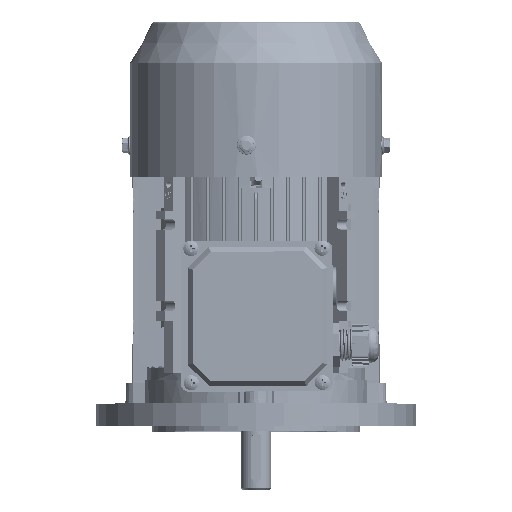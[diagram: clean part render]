
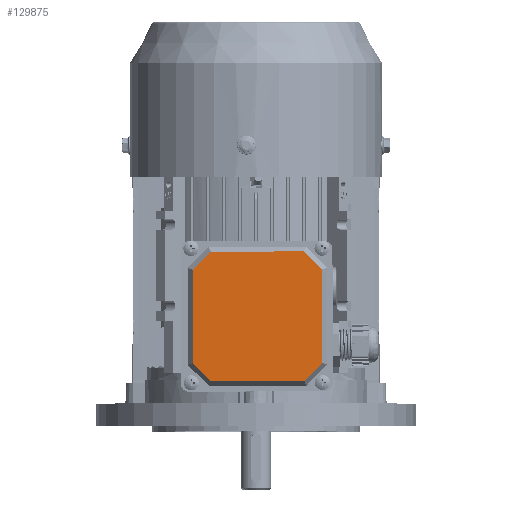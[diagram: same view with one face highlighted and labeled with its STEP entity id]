
A CAD part, top view. The second image highlights one B-rep face of the part: STEP entity #129875.
In plain terms, the highlighted planar face has unit normal (0, 0, 1) as drawn and (0, 1, 0) by its records, which use the part's own axes.
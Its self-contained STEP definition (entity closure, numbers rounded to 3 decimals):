
#4655 = LINE ( 'NONE', #78725, #34906 ) ;
#5495 = VERTEX_POINT ( 'NONE', #96677 ) ;
#7581 = FACE_OUTER_BOUND ( 'NONE', #130439, .T. ) ;
#13735 = VECTOR ( 'NONE', #115745, 1000. ) ;
#14990 = EDGE_CURVE ( 'NONE', #121032, #5495, #97800, .T. ) ;
#16844 = CARTESIAN_POINT ( 'NONE',  ( 0., 6., 40.5 ) ) ;
#18146 = DIRECTION ( 'NONE',  ( 0., 0., 1. ) ) ;
#25959 = CARTESIAN_POINT ( 'NONE',  ( 40.5, 6., 0. ) ) ;
#26683 = DIRECTION ( 'NONE',  ( -0.707, 0., 0.707 ) ) ;
#31407 = LINE ( 'NONE', #143083, #104290 ) ;
#33840 = PLANE ( 'NONE',  #65926 ) ;
#34241 = VECTOR ( 'NONE', #37388, 1000. ) ;
#34906 = VECTOR ( 'NONE', #146999, 1000. ) ;
#36092 = CARTESIAN_POINT ( 'NONE',  ( -40.5, 6., 29.15 ) ) ;
#36533 = ORIENTED_EDGE ( 'NONE', *, *, #101284, .T. ) ;
#37388 = DIRECTION ( 'NONE',  ( 0., 0., -1. ) ) ;
#37910 = LINE ( 'NONE', #49505, #68185 ) ;
#43989 = LINE ( 'NONE', #104326, #13735 ) ;
#45228 = DIRECTION ( 'NONE',  ( 0., -1., 0. ) ) ;
#49505 = CARTESIAN_POINT ( 'NONE',  ( 34.825, 6., 34.825 ) ) ;
#50067 = LINE ( 'NONE', #120610, #137353 ) ;
#51166 = DIRECTION ( 'NONE',  ( 1., 0., 0. ) ) ;
#52191 = VECTOR ( 'NONE', #51166, 1000. ) ;
#56212 = CARTESIAN_POINT ( 'NONE',  ( 0., 6., 0. ) ) ;
#59301 = LINE ( 'NONE', #16844, #52191 ) ;
#63089 = EDGE_CURVE ( 'NONE', #5495, #134616, #50067, .T. ) ;
#63402 = DIRECTION ( 'NONE',  ( -0.707, 0., -0.707 ) ) ;
#65926 = AXIS2_PLACEMENT_3D ( 'NONE', #56212, #45228, #124870 ) ;
#65983 = EDGE_CURVE ( 'NONE', #123307, #121684, #59301, .T. ) ;
#68185 = VECTOR ( 'NONE', #106194, 1000. ) ;
#68236 = ORIENTED_EDGE ( 'NONE', *, *, #82058, .T. ) ;
#74002 = EDGE_CURVE ( 'NONE', #134519, #121032, #4655, .T. ) ;
#74597 = ORIENTED_EDGE ( 'NONE', *, *, #77738, .T. ) ;
#77738 = EDGE_CURVE ( 'NONE', #107820, #145939, #121423, .T. ) ;
#78725 = CARTESIAN_POINT ( 'NONE',  ( 0., 6., -40.5 ) ) ;
#79872 = CARTESIAN_POINT ( 'NONE',  ( 29.15, 6., -40.5 ) ) ;
#80077 = CARTESIAN_POINT ( 'NONE',  ( -29.15, 6., 40.5 ) ) ;
#81940 = ORIENTED_EDGE ( 'NONE', *, *, #65983, .T. ) ;
#82058 = EDGE_CURVE ( 'NONE', #134616, #123307, #43989, .T. ) ;
#88786 = EDGE_CURVE ( 'NONE', #145939, #134519, #31407, .T. ) ;
#93676 = ORIENTED_EDGE ( 'NONE', *, *, #74002, .T. ) ;
#94816 = CARTESIAN_POINT ( 'NONE',  ( -34.825, 6., -34.825 ) ) ;
#96677 = CARTESIAN_POINT ( 'NONE',  ( -40.5, 6., -29.15 ) ) ;
#97485 = ORIENTED_EDGE ( 'NONE', *, *, #88786, .T. ) ;
#97800 = LINE ( 'NONE', #94816, #128063 ) ;
#101284 = EDGE_CURVE ( 'NONE', #121684, #107820, #37910, .T. ) ;
#104290 = VECTOR ( 'NONE', #63402, 1000. ) ;
#104326 = CARTESIAN_POINT ( 'NONE',  ( -34.825, 6., 34.825 ) ) ;
#106194 = DIRECTION ( 'NONE',  ( 0.707, 0., -0.707 ) ) ;
#107820 = VERTEX_POINT ( 'NONE', #147409 ) ;
#109246 = ORIENTED_EDGE ( 'NONE', *, *, #14990, .T. ) ;
#110453 = CARTESIAN_POINT ( 'NONE',  ( 29.15, 6., 40.5 ) ) ;
#110898 = CARTESIAN_POINT ( 'NONE',  ( 40.5, 6., -29.15 ) ) ;
#115745 = DIRECTION ( 'NONE',  ( 0.707, 0., 0.707 ) ) ;
#120610 = CARTESIAN_POINT ( 'NONE',  ( -40.5, 6., 0. ) ) ;
#121032 = VERTEX_POINT ( 'NONE', #129065 ) ;
#121423 = LINE ( 'NONE', #25959, #34241 ) ;
#121684 = VERTEX_POINT ( 'NONE', #110453 ) ;
#123307 = VERTEX_POINT ( 'NONE', #80077 ) ;
#124870 = DIRECTION ( 'NONE',  ( 0., 0., -1. ) ) ;
#128063 = VECTOR ( 'NONE', #26683, 1000. ) ;
#129065 = CARTESIAN_POINT ( 'NONE',  ( -29.15, 6., -40.5 ) ) ;
#129335 = ORIENTED_EDGE ( 'NONE', *, *, #63089, .T. ) ;
#129875 = ADVANCED_FACE ( 'NONE', ( #7581 ), #33840, .F. ) ;
#130439 = EDGE_LOOP ( 'NONE', ( #36533, #74597, #97485, #93676, #109246, #129335, #68236, #81940 ) ) ;
#134519 = VERTEX_POINT ( 'NONE', #79872 ) ;
#134616 = VERTEX_POINT ( 'NONE', #36092 ) ;
#137353 = VECTOR ( 'NONE', #18146, 1000. ) ;
#143083 = CARTESIAN_POINT ( 'NONE',  ( 34.825, 6., -34.825 ) ) ;
#145939 = VERTEX_POINT ( 'NONE', #110898 ) ;
#146999 = DIRECTION ( 'NONE',  ( -1., 0., 0. ) ) ;
#147409 = CARTESIAN_POINT ( 'NONE',  ( 40.5, 6., 29.15 ) ) ;
